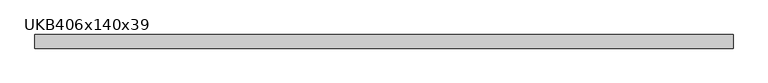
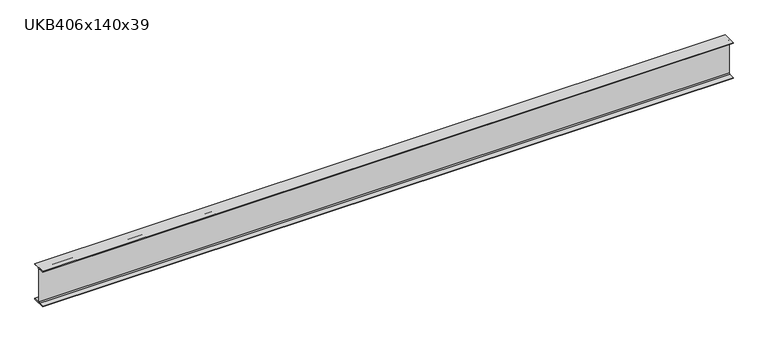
"""IFC4 building model written with IfcOpenShell, lengths in millimetres: beam geometry, UKB-UK Beams : UKB406x140x39."""

import ifcopenshell
import ifcopenshell.guid

model = None  # the IFC model being written
_history = None  # IfcOwnerHistory: only IFC2X3 demands one
_inside = {}  # id of a spatial element -> (the spatial element, [elements in it])
_under = {}  # id of a project, library or spatial element -> (it, [spatial elements below it])
_declared = {}  # id of a project -> (the project, [libraries it declares])
_typed = {}  # id of a type object -> (the type object, [elements of that type])
_made_of = {}  # id of a material, layer set ... -> (it, [elements and type objects made of it])


def new_model(schema):
    """Start an empty IFC model of exactly this schema.

    Asked for "IFC4X3", IfcOpenShell would pick the latest addendum, in which some entities
    have other attributes; the version numbers below select the first issue.
    IFC2X3 requires an IfcOwnerHistory on every rooted entity: one is made here for all.
    """
    global model, _history
    if schema == "IFC4X3":
        model = ifcopenshell.file(schema_version=(4, 3, 0, 0))
    else:
        model = ifcopenshell.file(schema=schema)
    _inside.clear()
    _under.clear()
    _declared.clear()
    _typed.clear()
    _made_of.clear()
    _history = None
    if model.schema == "IFC2X3":
        org = make("IfcOrganization", Name="unknown")
        user = make(
            "IfcPersonAndOrganization",
            ThePerson=make("IfcPerson", FamilyName="unknown"),
            TheOrganization=org,
        )
        app = make(
            "IfcApplication",
            ApplicationDeveloper=org,
            Version="unknown",
            ApplicationFullName="unknown",
            ApplicationIdentifier="unknown",
        )
        _history = make(
            "IfcOwnerHistory",
            OwningUser=user,
            OwningApplication=app,
            ChangeAction="ADDED",
            CreationDate=0,
        )
    return model


def make(cls, **values):
    """One entity of the class cls with the attributes given. An attribute that is None is left unset."""
    return model.create_entity(
        cls, **{name: value for name, value in values.items() if value is not None}
    )


def rooted(cls, **values):
    """An entity with a GlobalId (a new one), such as an element, a storey or a relation."""
    return make(cls, GlobalId=ifcopenshell.guid.new(), OwnerHistory=_history, **values)


def si_unit(unit_type, name, prefix=None):
    """IfcSIUnit, for example si_unit("LENGTHUNIT", "METRE", prefix="MILLI")."""
    return make("IfcSIUnit", UnitType=unit_type, Prefix=prefix, Name=name)


def assignment(units):
    """IfcUnitAssignment: the units of a project."""
    return None if units is None else make("IfcUnitAssignment", Units=units)


def point(xyz):
    """IfcCartesianPoint."""
    return None if xyz is None else make("IfcCartesianPoint", Coordinates=xyz)


def direction(xyz):
    """IfcDirection."""
    return None if xyz is None else make("IfcDirection", DirectionRatios=xyz)


def frame(location, z_axis=None, x_axis=None):
    """IfcAxis2Placement3D, a coordinate frame: its origin and axes. An axis left out is left unset."""
    return make(
        "IfcAxis2Placement3D",
        Location=point(location),
        Axis=direction(z_axis),
        RefDirection=direction(x_axis),
    )


def frame_2d(location, x_axis=None):
    """IfcAxis2Placement2D, a coordinate frame in the plane: its origin and x axis."""
    return make(
        "IfcAxis2Placement2D", Location=point(location), RefDirection=direction(x_axis)
    )


def origin():
    """The frame at (0, 0, 0) with its axes left unset."""
    return frame((0.0, 0.0, 0.0))


def place(relative_to, where):
    """IfcLocalPlacement: puts the frame where relative to a parent placement (None: the world)."""
    return make(
        "IfcLocalPlacement", PlacementRelTo=relative_to, RelativePlacement=where
    )


def context(
    kind, dimensions, precision=None, world=None, true_north=None, identifier=None
):
    """IfcGeometricRepresentationContext, for example the 3D "Model" context."""
    return make(
        "IfcGeometricRepresentationContext",
        ContextIdentifier=identifier,
        ContextType=kind,
        CoordinateSpaceDimension=dimensions,
        Precision=precision,
        WorldCoordinateSystem=world,
        TrueNorth=true_north,
    )


def project(units=None, contexts=None):
    """IfcProject with its units and contexts."""
    return rooted(
        "IfcProject",
        Name="project",
        RepresentationContexts=contexts,
        UnitsInContext=assignment(units),
    )


def spatial(cls, under=None, at=None, **own):
    """A site, building, storey or space (cls), placed at a placement, below another one or the project."""
    s = rooted(cls, ObjectPlacement=at, **own)
    if under is not None:
        _under.setdefault(under.id(), (under, []))[1].append(s)
    return s


def polyline(points):
    """IfcPolyline through the points."""
    return make("IfcPolyline", Points=[point(p) for p in points])


def circle_curve(where, radius):
    """IfcCircle in the frame where."""
    return make("IfcCircle", Position=where, Radius=radius)


def trimmed(basis, trim1, trim2, sense, master):
    """IfcTrimmedCurve: the piece of a basis curve between two trims."""
    return make(
        "IfcTrimmedCurve",
        BasisCurve=basis,
        Trim1=trim1,
        Trim2=trim2,
        SenseAgreement=sense,
        MasterRepresentation=master,
    )


def segment(curve, same_sense, transition):
    """IfcCompositeCurveSegment."""
    return make(
        "IfcCompositeCurveSegment",
        Transition=transition,
        SameSense=same_sense,
        ParentCurve=curve,
    )


def composite_curve(segments, self_intersect=None):
    """IfcCompositeCurve: segments joined end to end."""
    return make("IfcCompositeCurve", Segments=segments, SelfIntersect=self_intersect)


def outline(outer, holes=None, kind="AREA"):
    """IfcArbitraryClosedProfileDef: a profile drawn as a closed curve; with holes, ...WithVoids."""
    if holes is None:
        return make("IfcArbitraryClosedProfileDef", ProfileType=kind, OuterCurve=outer)
    return make(
        "IfcArbitraryProfileDefWithVoids",
        ProfileType=kind,
        OuterCurve=outer,
        InnerCurves=holes,
    )


def extrude(swept, where, along, depth):
    """IfcExtrudedAreaSolid: the profile swept, set in the frame where, extruded along a direction by depth."""
    return make(
        "IfcExtrudedAreaSolid",
        SweptArea=swept,
        Position=where,
        ExtrudedDirection=direction(along),
        Depth=depth,
    )


def shape(context_of_items, identifier, shape_type, items):
    """IfcShapeRepresentation: the items that make up one representation, for example the "Body"."""
    return make(
        "IfcShapeRepresentation",
        ContextOfItems=context_of_items,
        RepresentationIdentifier=identifier,
        RepresentationType=shape_type,
        Items=items,
    )


def source(mapping_origin, context_of_items, identifier, shape_type, items):
    """IfcRepresentationMap: a shape defined once, which mapped items show again and again."""
    return make(
        "IfcRepresentationMap",
        MappingOrigin=mapping_origin,
        MappedRepresentation=shape(context_of_items, identifier, shape_type, items),
    )


def transform(
    local_origin,
    x_axis=None,
    y_axis=None,
    z_axis=None,
    scale=None,
    scale2=None,
    scale3=None,
    uniform=True,
):
    """IfcCartesianTransformationOperator3D, or its non-uniform kind. x_axis, y_axis, z_axis: its Axis1, 2, 3."""
    if uniform:
        return make(
            "IfcCartesianTransformationOperator3D",
            Axis1=direction(x_axis),
            Axis2=direction(y_axis),
            LocalOrigin=point(local_origin),
            Scale=scale,
            Axis3=direction(z_axis),
        )
    return make(
        "IfcCartesianTransformationOperator3DnonUniform",
        Axis1=direction(x_axis),
        Axis2=direction(y_axis),
        LocalOrigin=point(local_origin),
        Scale=scale,
        Axis3=direction(z_axis),
        Scale2=scale2,
        Scale3=scale3,
    )


def mapped(mapping_source, mapping_target):
    """IfcMappedItem: shows the shape of a source again, moved by a transform."""
    return make(
        "IfcMappedItem", MappingSource=mapping_source, MappingTarget=mapping_target
    )


def made_of(thing, what):
    """Note that an element or type object is made of a material, layer set ...; save() writes the relation."""
    if what is not None:
        _made_of.setdefault(what.id(), (what, []))[1].append(thing)
    return thing


def element(
    cls,
    number,
    at=None,
    inside=None,
    cuts=None,
    type_object=None,
    material=None,
    context=None,
    identifier="Body",
    shape_type=None,
    held_by="IfcProductDefinitionShape",
    body=None,
    shapes=None,
    **own,
):
    """One element of the class cls, such as IfcWall. Its Tag is "e" and its number.

    at: its placement. inside: the storey or other place that contains it. cuts: it is an
    opening in that element (IfcRelVoidsElement). A single representation is given by context,
    identifier, shape_type and body (its items); several are given by shapes. held_by: the class
    of the entity that holds the representations. save() writes the other relations.
    """
    e = rooted(cls, Tag="e%d" % number, ObjectPlacement=at, **own)
    if body is not None:
        shapes = [shape(context, identifier, shape_type, body)]
    if shapes is not None:
        e.Representation = make(held_by, Representations=shapes)
    if inside is not None:
        _inside.setdefault(inside.id(), (inside, []))[1].append(e)
    if cuts is not None:
        rooted(
            "IfcRelVoidsElement", RelatingBuildingElement=cuts, RelatedOpeningElement=e
        )
    if type_object is not None:
        _typed.setdefault(type_object.id(), (type_object, []))[1].append(e)
    return made_of(e, material)


def aggregate(whole, parts):
    """IfcRelAggregates: a whole, such as a stair, and the parts it consists of."""
    return rooted("IfcRelAggregates", RelatingObject=whole, RelatedObjects=parts)


def save(model, path):
    """Write the relations noted so far, then the file.

    IfcRelAggregates (storeys below a building ...), IfcRelContainedInSpatialStructure (elements
    in a storey), IfcRelDefinesByType, IfcRelAssociatesMaterial and IfcRelDeclares: one each for
    every whole, place, type object, material and project.
    """
    for whole, parts in _under.values():
        aggregate(whole, parts)
    for where, things in _inside.values():
        rooted(
            "IfcRelContainedInSpatialStructure",
            RelatedElements=things,
            RelatingStructure=where,
        )
    for kind, things in _typed.values():
        rooted("IfcRelDefinesByType", RelatedObjects=things, RelatingType=kind)
    for what, things in _made_of.values():
        rooted("IfcRelAssociatesMaterial", RelatedObjects=things, RelatingMaterial=what)
    for by, libraries in _declared.values():
        rooted("IfcRelDeclares", RelatingContext=by, RelatedDefinitions=libraries)
    model.write(path)


def ukb406x140x39_573959fe(model_context):
    return source(origin(), model_context, "Body", "SweptSolid", [
        extrude(outline(composite_curve([segment(polyline([(70.9, -190.4), (70.9, -199.0), (-70.9, -199.0), (-70.9, -190.4), (-13.4, -190.4)]), True, "CONTINUOUS"), segment(trimmed(circle_curve(frame_2d((-13.4, -180.2)), 10.2), [point((-13.4, -190.4))], [point((-3.2, -180.2))], True, "CARTESIAN"), True, "CONTINUOUS"), segment(polyline([(-3.2, -180.2), (-3.2, 180.2)]), True, "CONTINUOUS"), segment(trimmed(circle_curve(frame_2d((-13.4, 180.2)), 10.2), [point((-3.2, 180.2))], [point((-13.4, 190.4))], True, "CARTESIAN"), True, "CONTINUOUS"), segment(polyline([(-13.4, 190.4), (-70.9, 190.4), (-70.9, 199.0), (70.9, 199.0), (70.9, 190.4), (13.4, 190.4)]), True, "CONTINUOUS"), segment(trimmed(circle_curve(frame_2d((13.4, 180.2)), 10.2), [point((13.4, 190.4))], [point((3.2, 180.2))], True, "CARTESIAN"), True, "CONTINUOUS"), segment(polyline([(3.2, 180.2), (3.2, -180.2)]), True, "CONTINUOUS"), segment(trimmed(circle_curve(frame_2d((13.4, -180.2)), 10.2), [point((3.2, -180.2))], [point((13.4, -190.4))], True, "CARTESIAN"), True, "CONTINUOUS"), segment(polyline([(13.4, -190.4), (70.9, -190.4)]), True, "CONTINUOUS")], self_intersect=False)), frame((-3638.5, 0.0, 0.0), z_axis=(1.0, 0.0, 0.0), x_axis=(0.0, 1.0, 0.0)), (0.0, 0.0, 1.0), 7277.0),
    ])


if __name__ == "__main__":
    model = new_model("IFC4")
    model_context = context("Model", 3, world=origin())
    ifc_project = project(units=[si_unit("LENGTHUNIT", "METRE", prefix="MILLI")], contexts=[model_context])
    site = spatial("IfcSite", under=ifc_project)
    building = spatial("IfcBuilding", under=site)
    placement = place(None, origin())
    ukb406x140x39_shape = ukb406x140x39_573959fe(model_context)
    element("IfcBeam", 1, ObjectType="UKB-UK Beams : UKB406x140x39", at=placement, inside=building, context=model_context, shape_type="MappedRepresentation", body=[
        mapped(ukb406x140x39_shape, transform((0.0, 0.0, 0.0), x_axis=(1.0, 0.0, 0.0), y_axis=(0.0, 1.0, 0.0), z_axis=(0.0, 0.0, 1.0))),
    ])
    save(model, "model.ifc")
